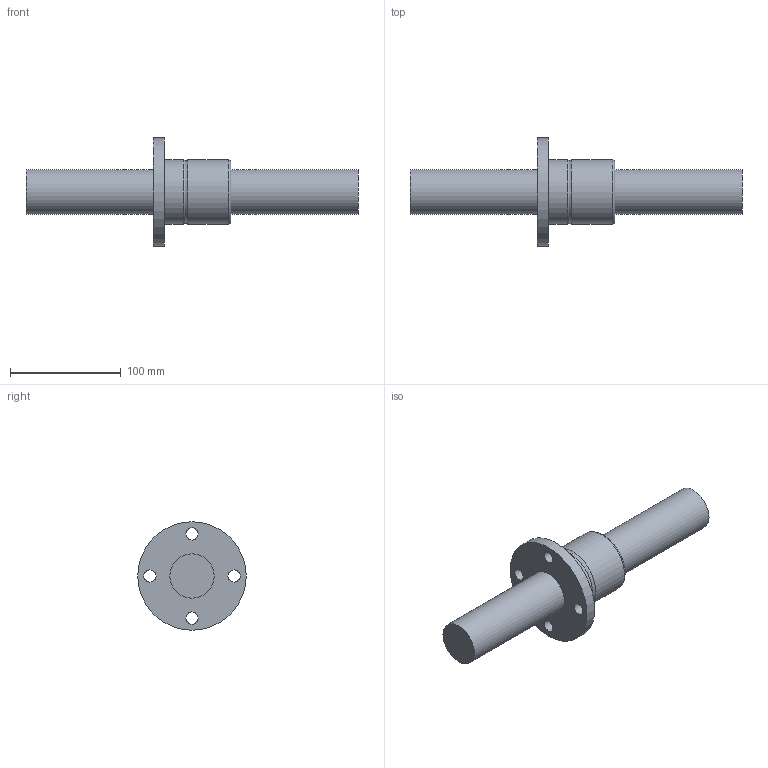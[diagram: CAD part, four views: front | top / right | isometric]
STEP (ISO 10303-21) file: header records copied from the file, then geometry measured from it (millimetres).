
FILE_DESCRIPTION((''),'2;1');
FILE_NAME('D:\製品 (図面)\カタログ用3D\ネジ関連\STEP形式\TMF-OH\TMF40-OH.stp','2010-06-02T15:15:49',('Tsuchiya'),(''),'Autodesk Inventor 10','Autodesk Inventor 10','');
FILE_SCHEMA(('AUTOMOTIVE_DESIGN { 1 0 10303 214 1 1 1 1 }'));
Length unit declared in the file: millimetre
Products named in the file (3): TMF40-OH; TMF40-OH1; TMF40-OH2
Assembly tree (2 placements, depth 2):
  TMF40-OH
    TMF40-OH1
    TMF40-OH2
Bounding box: 300 x 98 x 98 mm (x, y, z)
Volume: 518629.3 mm3; surface area: 76128.9 mm2
Topology: 2 solids, 2 shells, 18 faces, 40 edges, 27 vertices
Faces by surface type: cylinder 10, plane 5, bspline 2, torus 1
Full cylindrical faces by diameter (mm): 3 x1, 11 x4, 40 x2, 58 x2, 98 x1
Entity records: 714 total; most frequent: CARTESIAN_POINT 291, DIRECTION 82, ORIENTED_EDGE 44, EDGE_LOOP 44, AXIS2_PLACEMENT_3D 41, FACE_BOUND 26, VERTEX_POINT 22, EDGE_CURVE 22
